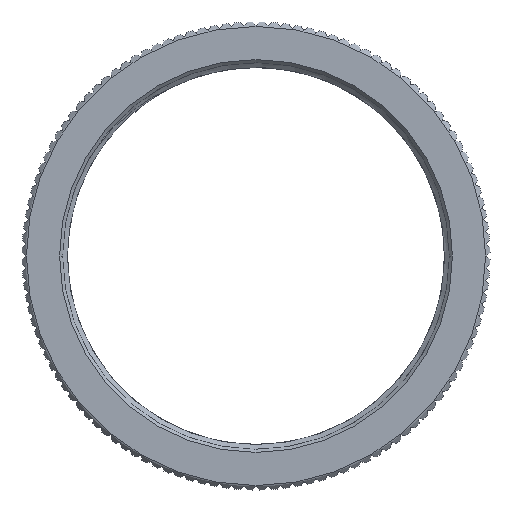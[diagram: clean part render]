
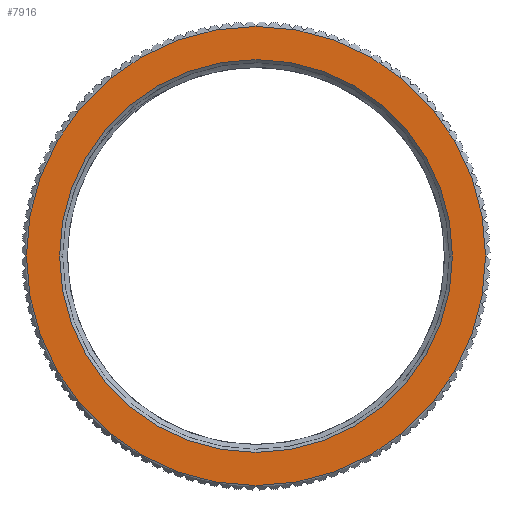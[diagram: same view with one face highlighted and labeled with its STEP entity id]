
A CAD part, front view. The second image highlights one B-rep face of the part: STEP entity #7916.
In plain terms, the highlighted planar face has unit normal (0, -1, 0).
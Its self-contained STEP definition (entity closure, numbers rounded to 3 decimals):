
#1=CARTESIAN_POINT('',(0.,0.,0.));
#2=DIRECTION('',(0.,-1.,0.));
#3=DIRECTION('',(-1.,0.,0.));
#4=AXIS2_PLACEMENT_3D('',#1,#2,#3);
#6=CARTESIAN_POINT('',(0.,0.,0.));
#7=DIRECTION('',(0.,-1.,0.));
#8=DIRECTION('',(1.,0.,0.));
#9=AXIS2_PLACEMENT_3D('',#6,#7,#8);
#11=CARTESIAN_POINT('',(0.,0.,0.));
#12=DIRECTION('',(0.,1.,0.));
#13=DIRECTION('',(1.,0.,0.));
#14=AXIS2_PLACEMENT_3D('',#11,#12,#13);
#16=CARTESIAN_POINT('',(0.,0.,0.));
#17=DIRECTION('',(0.,1.,0.));
#18=DIRECTION('',(-1.,0.,0.));
#19=AXIS2_PLACEMENT_3D('',#16,#17,#18);
#6659=CARTESIAN_POINT('',(-15.6,0.,0.));
#6660=CARTESIAN_POINT('',(15.6,0.,0.));
#6661=VERTEX_POINT('',#6659);
#6662=VERTEX_POINT('',#6660);
#6683=CARTESIAN_POINT('',(13.345,0.,0.));
#6684=CARTESIAN_POINT('',(-13.345,0.,0.));
#6685=VERTEX_POINT('',#6683);
#6686=VERTEX_POINT('',#6684);
#7899=CARTESIAN_POINT('',(0.,0.,0.));
#7900=DIRECTION('',(0.,1.,0.));
#7901=DIRECTION('',(1.,0.,0.));
#7902=AXIS2_PLACEMENT_3D('',#7899,#7900,#7901);
#7903=PLANE('',#7902);
#7905=ORIENTED_EDGE('',*,*,#7904,.F.);
#7907=ORIENTED_EDGE('',*,*,#7906,.F.);
#7908=EDGE_LOOP('',(#7905,#7907));
#7909=FACE_OUTER_BOUND('',#7908,.F.);
#7911=ORIENTED_EDGE('',*,*,#7910,.F.);
#7913=ORIENTED_EDGE('',*,*,#7912,.F.);
#7914=EDGE_LOOP('',(#7911,#7913));
#7915=FACE_BOUND('',#7914,.F.);
#7916=ADVANCED_FACE('',(#7909,#7915),#7903,.F.);
#5=CIRCLE('',#4,15.6);
#10=CIRCLE('',#9,15.6);
#15=CIRCLE('',#14,13.345);
#20=CIRCLE('',#19,13.345);
#7904=EDGE_CURVE('',#6661,#6662,#5,.T.);
#7906=EDGE_CURVE('',#6662,#6661,#10,.T.);
#7910=EDGE_CURVE('',#6685,#6686,#15,.T.);
#7912=EDGE_CURVE('',#6686,#6685,#20,.T.);
